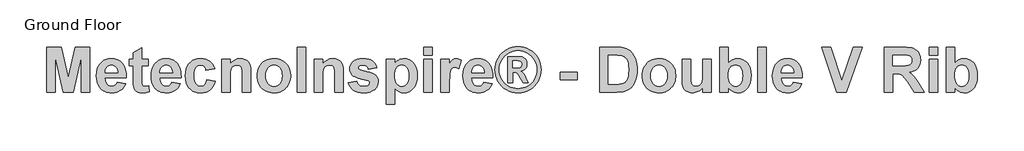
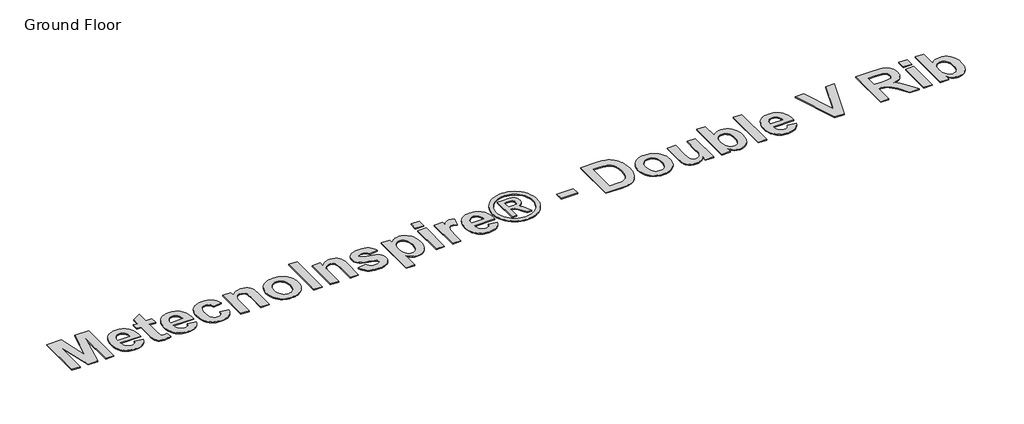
# One storey, part 9 of 14: 1 proxy.
"""IFC4 building model written with IfcOpenShell, lengths in millimetres."""

from ifc_helpers import new_model, si_unit, origin, origin_with_axes, place, context, project, spatial, polyline, outline, extrude, element, save

model = new_model("IFC4")

# Units and contexts
model_context = context("Model", 3, world=origin())
ifc_project = project(units=[si_unit("LENGTHUNIT", "METRE", prefix="MILLI")], contexts=[model_context])

# Site, building, storey
site = spatial("IfcSite", under=ifc_project)
building = spatial("IfcBuilding", under=site)
storey = spatial("IfcBuildingStorey", under=building, Name="Ground Floor", Elevation=0.0)

# Proxy
placement = place(None, origin())
element("IfcBuildingElementProxy", 1, Name="900mm Arial", ObjectType="900mm Arial", at=placement, inside=storey, context=model_context, shape_type="SweptSolid", body=[
    extrude(outline(polyline([(-961.6806462, -53019.7488861), (-961.6806462, -52097.7851027), (-660.7619114, -52097.7851027), (-515.3331003, -52726.6046475), (-369.9042893, -52097.7851027), (-68.9855544, -52097.7851027), (-68.9855544, -53019.7488861), (-244.5977036, -53019.7488861), (-251.9148765, -52293.9768007), (-412.4353566, -53019.7488861), (-618.0021824, -53019.7488861), (-778.7513241, -52293.9768007), (-786.068497, -53019.7488861), (-961.6806462, -53019.7488861)])), origin_with_axes(), (0.0, 0.0, 1.0), 20.0),
    extrude(outline(polyline([(487.1195848, -52814.8680454), (662.731734, -52844.1367369), (643.7528168, -52887.889715), (619.972005, -52926.0833567), (591.3892984, -52958.7176619), (558.0046971, -52985.7926307), (519.975406, -53007.0510187), (477.45863, -53022.2355816), (430.454369, -53031.3463193), (378.9626231, -53034.3832319), (337.8142441, -53032.5932399), (299.431242, -53027.2232639), (263.8136168, -53018.2733039), (230.9613684, -53005.7433599), (200.8744969, -52989.6334319), (173.5530023, -52969.9435199), (148.9968845, -52946.6736239), (127.2061436, -52919.8237439), (98.9950122, -52870.961607), (78.844204, -52816.0685191), (66.7537191, -52755.14448), (62.7235575, -52688.1894898), (68.0685237, -52609.2440543), (84.103422, -52539.330754), (96.1295958, -52507.7611545), (110.8282527, -52478.449589), (128.1993926, -52451.3960572), (148.2430156, -52426.6005592), (193.8324326, -52385.1842174), (218.7494071, -52368.9135117), (245.0812255, -52355.6011161), (272.8278879, -52345.2470306), (301.9893943, -52337.8512553), (364.556939, -52331.934635), (400.288895, -52333.4530913), (434.0843727, -52338.0084602), (465.9433721, -52345.6007416), (495.865893, -52356.2299356), (523.8519356, -52369.8960422), (549.9014998, -52386.5990614), (574.0145856, -52406.3389931), (596.1911931, -52429.1158374), (616.0168729, -52455.0296337), (633.0771759, -52484.1804216), (647.3721021, -52516.568201), (658.9016513, -52552.1929719), (667.6658237, -52591.0547344), (673.6646193, -52633.1534883), (677.3660798, -52727.0619708), (238.3357067, -52727.0619708), (241.6084266, -52766.3631923), (249.5972931, -52801.0340154), (262.3023062, -52831.07444), (279.7234659, -52856.4844662), (300.7174638, -52876.6924397), (324.1409919, -52891.1267065), (349.99405, -52899.7872666), (378.2766381, -52902.67412), (415.1483296, -52897.4720674), (445.7318257, -52881.8659096), (458.608335, -52869.8754642), (469.7984646, -52854.7123383), (487.1195848, -52814.8680454)]), holes=[polyline([(501.7539306, -52624.6215504), (498.6241242, -52587.5426343), (491.0639983, -52555.1941561), (479.0735529, -52527.5761159), (462.652788, -52504.6885136), (443.0164685, -52486.7314282), (421.3793597, -52473.9049386), (397.7414613, -52466.2090449), (372.1027735, -52463.6437469), (344.8634542, -52466.3448127), (320.0822476, -52474.44801), (297.7591537, -52487.9533389), (277.8941726, -52506.8607993), (261.7163607, -52530.512989), (250.2261127, -52558.0238441), (243.4234285, -52589.3933645), (241.3083082, -52624.6215504), (501.7539306, -52624.6215504)])]), origin_with_axes(), (0.0, 0.0, 1.0), 20.0),
    extrude(outline(polyline([(1131.0307986, -52346.5689808), (1131.0307986, -52478.2780927), (999.3216867, -52478.2780927), (999.3216867, -52767.07776), (1000.3220814, -52836.3908234), (1003.3232656, -52869.1751879), (1009.8687054, -52882.4375637), (1021.501867, -52893.1846614), (1037.2223556, -52900.3017553), (1056.0297765, -52902.67412), (1090.7863477, -52898.4438794), (1138.3479715, -52885.7531577), (1145.6651444, -53010.60242), (1112.8379059, -53021.0065252), (1077.9241298, -53028.4380289), (1001.8369649, -53034.3832319), (955.0756569, -53030.2673222), (913.1162436, -53017.9195929), (878.8455785, -52999.0550066), (855.1505147, -52975.3885255), (839.5157742, -52944.6906987), (829.4260788, -52904.7320749), (825.1386728, -52856.9989549), (823.7095375, -52776.910211), (823.7095375, -52478.2780927), (735.9034629, -52478.2780927), (735.9034629, -52346.5689808), (823.7095375, -52346.5689808), (823.7095375, -52214.8598689), (999.3216867, -52112.4194485), (999.3216867, -52346.5689808), (1131.0307986, -52346.5689808)])), origin_with_axes(), (0.0, 0.0, 1.0), 20.0),
    extrude(outline(polyline([(1613.9642089, -52814.8680454), (1789.5763582, -52844.1367369), (1770.597441, -52887.889715), (1746.8166291, -52926.0833567), (1718.2339225, -52958.7176619), (1684.8493213, -52985.7926307), (1646.8200302, -53007.0510187), (1604.3032541, -53022.2355816), (1557.2989932, -53031.3463193), (1505.8072472, -53034.3832319), (1464.6588683, -53032.5932399), (1426.2758662, -53027.2232639), (1390.658241, -53018.2733039), (1357.8059926, -53005.7433599), (1327.7191211, -52989.6334319), (1300.3976264, -52969.9435199), (1275.8415086, -52946.6736239), (1254.0507677, -52919.8237439), (1225.8396363, -52870.961607), (1205.6888282, -52816.0685191), (1193.5983433, -52755.14448), (1189.5681817, -52688.1894898), (1194.9131478, -52609.2440543), (1210.9480462, -52539.330754), (1222.97422, -52507.7611545), (1237.6728768, -52478.449589), (1255.0440168, -52451.3960572), (1275.0876397, -52426.6005592), (1320.6770567, -52385.1842174), (1345.5940312, -52368.9135117), (1371.9258496, -52355.6011161), (1399.672512, -52345.2470306), (1428.8340184, -52337.8512553), (1491.4015631, -52331.934635), (1527.1335192, -52333.4530913), (1560.9289969, -52338.0084602), (1592.7879962, -52345.6007416), (1622.7105172, -52356.2299356), (1650.6965597, -52369.8960422), (1676.7461239, -52386.5990614), (1700.8592098, -52406.3389931), (1723.0358172, -52429.1158374), (1742.8614971, -52455.0296337), (1759.9218001, -52484.1804216), (1774.2167262, -52516.568201), (1785.7462755, -52552.1929719), (1794.5104479, -52591.0547344), (1800.5092434, -52633.1534883), (1804.2107039, -52727.0619708), (1365.1803309, -52727.0619708), (1368.4530508, -52766.3631923), (1376.4419173, -52801.0340154), (1389.1469304, -52831.07444), (1406.56809, -52856.4844662), (1427.562088, -52876.6924397), (1450.985616, -52891.1267065), (1476.8386741, -52899.7872666), (1505.1212623, -52902.67412), (1541.9929538, -52897.4720674), (1572.5764498, -52881.8659096), (1585.4529591, -52869.8754642), (1596.6430888, -52854.7123383), (1613.9642089, -52814.8680454)]), holes=[polyline([(1628.5985547, -52624.6215504), (1625.4687483, -52587.5426343), (1617.9086225, -52555.1941561), (1605.918177, -52527.5761159), (1589.4974121, -52504.6885136), (1569.8610927, -52486.7314282), (1548.2239838, -52473.9049386), (1524.5860855, -52466.2090449), (1498.9473977, -52463.6437469), (1471.7080783, -52466.3448127), (1446.9268717, -52474.44801), (1424.6037779, -52487.9533389), (1404.7387968, -52506.8607993), (1388.5609849, -52530.512989), (1377.0707368, -52558.0238441), (1370.2680527, -52589.3933645), (1368.1529324, -52624.6215504), (1628.5985547, -52624.6215504)])]), origin_with_axes(), (0.0, 0.0, 1.0), 20.0),
    extrude(outline(polyline([(2492.024955, -52536.8154758), (2316.4128058, -52566.0841673), (2310.9892372, -52542.1675876), (2302.950351, -52521.4093969), (2292.2961471, -52503.8095954), (2279.0266256, -52489.3681829), (2263.3561567, -52478.1137421), (2245.4991108, -52470.0748559), (2225.4554878, -52465.2515242), (2203.2252878, -52463.6437469), (2173.8136827, -52466.6592225), (2147.5461753, -52475.7056491), (2124.4227657, -52490.7830268), (2104.4434538, -52511.8913556), (2088.3370987, -52540.059613), (2076.8325593, -52576.3167763), (2069.9298356, -52620.6628455), (2067.6289278, -52673.0978208), (2070.0227294, -52731.3636681), (2077.2041345, -52780.3973012), (2089.1731428, -52820.1987202), (2105.9297546, -52850.7679248), (2126.7165279, -52873.4768852), (2150.7760212, -52889.6975712), (2178.1082344, -52899.4299828), (2208.7131674, -52902.67412), (2231.7436833, -52900.8233897), (2252.587622, -52895.271199), (2271.2449837, -52886.0175477), (2287.7157684, -52873.062436), (2301.957102, -52855.5769652), (2313.9261103, -52832.732237), (2323.6227935, -52804.5282513), (2331.0471516, -52770.9650081), (2506.6593008, -52800.2336996), (2490.4743432, -52854.6480273), (2468.2155605, -52901.9595523), (2439.8829526, -52942.1682748), (2405.4765195, -52975.2741947), (2364.8533478, -53001.1343985), (2317.8705238, -53019.6059726), (2264.5280477, -53030.6889171), (2204.8259193, -53034.3832319), (2136.9920109, -53028.5666511), (2105.7922003, -53021.2959251), (2076.4038187, -53011.1169087), (2048.8268661, -52998.029602), (2023.0613425, -52982.0340048), (1999.107248, -52963.1301172), (1976.9645825, -52941.3179393), (1957.0549409, -52916.9368906), (1939.7999183, -52890.3263907), (1925.1995145, -52861.4864398), (1913.2537295, -52830.4170378), (1897.3260163, -52761.5898803), (1892.0167785, -52683.8449184), (1897.2902879, -52605.2210383), (1913.110816, -52535.8150811), (1924.9762121, -52504.5688235), (1939.4783628, -52475.6270467), (1956.6172682, -52448.9897506), (1976.3929284, -52424.6569352), (1998.4194766, -52402.9251461), (2022.3110465, -52384.0909289), (2048.0676379, -52368.1542835), (2075.689251, -52355.1152101), (2105.1758857, -52344.9737085), (2136.527542, -52337.7297788), (2204.8259193, -52331.934635), (2260.6908193, -52335.1001698), (2310.5247683, -52344.596774), (2354.3277661, -52360.4244478), (2392.0998128, -52382.5831911), (2424.4125626, -52411.2159174), (2451.8376696, -52446.4655403), (2474.3751337, -52488.3320598), (2492.024955, -52536.8154758)])), origin_with_axes(), (0.0, 0.0, 1.0), 20.0),
    extrude(outline(polyline([(3238.3765892, -53019.7488861), (3062.76444, -53019.7488861), (3062.76444, -52673.7838057), (3060.0205002, -52583.2337913), (3051.7886807, -52531.5562578), (3037.3258311, -52502.9163858), (3015.8888012, -52481.4793558), (2988.5065683, -52468.1026492), (2956.2081099, -52463.6437469), (2934.3780677, -52465.2372328), (2913.7056252, -52470.0176905), (2894.1907823, -52477.98512), (2875.833539, -52489.1395212), (2859.4556481, -52502.9306771), (2845.8788625, -52518.8083706), (2835.1031821, -52536.7726017), (2827.128607, -52556.8233704), (2817.2675732, -52616.8756369), (2813.9805619, -52712.6562867), (2813.9805619, -53019.7488861), (2638.3684127, -53019.7488861), (2638.3684127, -52346.5689808), (2813.9805619, -52346.5689808), (2813.9805619, -52443.5215215), (2835.5212042, -52417.368345), (2858.4123793, -52394.7022587), (2882.6540873, -52375.5232626), (2908.2463282, -52359.8313567), (2935.189102, -52347.6265409), (2963.4824087, -52338.9088154), (2993.1262482, -52333.6781801), (3024.1206207, -52331.934635), (3077.5131166, -52337.2510185), (3126.1037178, -52353.2001687), (3166.6911611, -52377.3811385), (3196.0741835, -52407.3929804), (3216.2249916, -52442.5211268), (3229.1157923, -52482.05101), (3236.06139, -52532.8424796), (3238.3765892, -52601.7553851), (3238.3765892, -53019.7488861)])), origin_with_axes(), (0.0, 0.0, 1.0), 20.0),
    extrude(outline(polyline([(3370.0857011, -52673.5551441), (3372.7939126, -52629.6592524), (3380.9185469, -52586.4636371), (3394.4596042, -52543.9682981), (3413.4170843, -52502.1732354), (3437.333664, -52463.179278), (3465.75202, -52429.0872547), (3498.6721523, -52399.8971656), (3536.0940609, -52375.6090107), (3576.9244573, -52356.5014713), (3620.0700529, -52342.8532289), (3665.5308477, -52334.6642835), (3713.3068417, -52331.934635), (3750.2946504, -52333.481674), (3785.5710696, -52338.122791), (3819.1360992, -52345.857986), (3850.9897393, -52356.6872589), (3881.1319898, -52370.6106099), (3909.5628508, -52387.6280388), (3936.2823221, -52407.7395457), (3961.290404, -52430.9451306), (3983.9332669, -52456.5159345), (4003.5570813, -52483.7230983), (4020.1618474, -52512.5666221), (4033.7475652, -52543.0465058), (4044.3142345, -52575.1627495), (4051.8618555, -52608.9153531), (4057.8999522, -52681.3296402), (4056.3743503, -52718.6425773), (4051.7975444, -52754.3227272), (4044.1695345, -52788.37009), (4033.4903208, -52820.7846656), (4019.7599031, -52851.5664542), (4002.9782815, -52880.7154557), (3983.145456, -52908.23167), (3960.2614265, -52934.1150972), (3935.0657707, -52957.6154413), (3908.298066, -52977.9824061), (3879.9583124, -52995.2159918), (3850.04651, -53009.3161982), (3818.5626587, -53020.2830255), (3785.5067585, -53028.1164735), (3750.8788095, -53032.8165423), (3714.6788116, -53034.3832319), (3669.368076, -53031.7750599), (3625.1291919, -53023.950544), (3581.9621593, -53010.9096841), (3539.8669782, -52992.6524803), (3500.7944183, -52969.3504288), (3466.6952494, -52941.1750257), (3437.5694713, -52908.1262713), (3413.4170843, -52870.2041653), (3394.4596042, -52827.6445152), (3380.9185469, -52780.6831283), (3372.7939126, -52729.3200046), (3370.0857011, -52673.5551441)]), holes=[polyline([(3545.6978503, -52683.1589335), (3548.7347629, -52733.2143984), (3557.8455006, -52777.0531246), (3573.0300635, -52814.6751121), (3594.2884515, -52846.080361), (3620.0057418, -52870.8401305), (3648.5670113, -52888.5256802), (3679.9722602, -52899.13701), (3714.2214883, -52902.67412), (3748.4564251, -52899.13701), (3779.8187999, -52888.5256802), (3808.3086127, -52870.8401305), (3833.9258635, -52846.080361), (3855.084212, -52814.589364), (3870.1973181, -52776.7101321), (3879.2651818, -52732.4426653), (3882.287803, -52681.7869636), (3879.2651818, -52632.3317355), (3870.1973181, -52588.9217499), (3855.084212, -52551.5570067), (3833.9258635, -52520.237506), (3808.3086127, -52495.4777364), (3779.8187999, -52477.7921867), (3748.4564251, -52467.1808569), (3714.2214883, -52463.6437469), (3679.9722602, -52467.1808569), (3648.5670113, -52477.7921867), (3620.0057418, -52495.4777364), (3594.2884515, -52520.237506), (3573.0300635, -52551.6427548), (3557.8455006, -52589.2647424), (3548.7347629, -52633.1034686), (3545.6978503, -52683.1589335)])]), origin_with_axes(), (0.0, 0.0, 1.0), 20.0),
    extrude(outline(polyline([(4189.6090641, -53019.7488861), (4189.6090641, -52097.7851027), (4365.2212134, -52097.7851027), (4365.2212134, -53019.7488861), (4189.6090641, -53019.7488861)])), origin_with_axes(), (0.0, 0.0, 1.0), 20.0),
    extrude(outline(polyline([(5140.8415391, -53019.7488861), (4965.2293898, -53019.7488861), (4965.2293898, -52673.7838057), (4962.48545, -52583.2337913), (4954.2536305, -52531.5562578), (4939.790781, -52502.9163858), (4918.3537511, -52481.4793558), (4890.9715182, -52468.1026492), (4858.6730597, -52463.6437469), (4836.8430176, -52465.2372328), (4816.170575, -52470.0176905), (4796.6557321, -52477.98512), (4778.2984888, -52489.1395212), (4761.920598, -52502.9306771), (4748.3438123, -52518.8083706), (4737.5681319, -52536.7726017), (4729.5935568, -52556.8233704), (4719.732523, -52616.8756369), (4716.4455118, -52712.6562867), (4716.4455118, -53019.7488861), (4540.8333626, -53019.7488861), (4540.8333626, -52346.5689808), (4716.4455118, -52346.5689808), (4716.4455118, -52443.5215215), (4737.986154, -52417.368345), (4760.8773292, -52394.7022587), (4785.1190372, -52375.5232626), (4810.7112781, -52359.8313567), (4837.6540519, -52347.6265409), (4865.9473585, -52338.9088154), (4895.5911981, -52333.6781801), (4926.5855706, -52331.934635), (4979.9780664, -52337.2510185), (5028.5686676, -52353.2001687), (5069.156111, -52377.3811385), (5098.5391333, -52407.3929804), (5118.6899415, -52442.5211268), (5131.5807421, -52482.05101), (5138.5263398, -52532.8424796), (5140.8415391, -52601.7553851), (5140.8415391, -53019.7488861)])), origin_with_axes(), (0.0, 0.0, 1.0), 20.0),
    extrude(outline(polyline([(5243.2819594, -52829.5023911), (5418.8941087, -52800.2336996), (5425.8182693, -52823.871598), (5435.614992, -52844.4797294), (5448.2842767, -52862.0580939), (5463.8261234, -52876.6066916), (5482.4834851, -52888.0111915), (5504.4993149, -52896.1572629), (5529.8736126, -52901.0449057), (5558.6063784, -52902.67412), (5590.0330643, -52901.1163625), (5617.3152577, -52896.44309), (5640.4529587, -52888.6543024), (5659.4461672, -52877.7499999), (5676.5957912, -52857.3991128), (5682.3123325, -52831.1030227), (5679.2825656, -52812.9244213), (5670.1932649, -52798.1757447), (5649.4422199, -52786.1138426), (5612.7991901, -52775.0809178), (5518.4905497, -52752.1290044), (5443.1894092, -52730.1489031), (5386.8957686, -52709.1406137), (5349.6096279, -52689.1041364), (5315.8963255, -52659.2494994), (5291.8153952, -52624.1070617), (5277.366837, -52583.6768232), (5272.550651, -52537.958784), (5276.6808521, -52496.127993), (5289.0714554, -52457.7557094), (5309.7224609, -52422.8419333), (5338.6338686, -52391.3866647), (5376.2344191, -52365.3764017), (5422.952853, -52346.7976425), (5478.7891703, -52335.6503869), (5543.743371, -52331.934635), (5605.5820567, -52334.9358192), (5658.9316785, -52343.9393718), (5703.7922365, -52358.9452927), (5740.1637306, -52379.9535821), (5769.789706, -52406.849909), (5794.4137077, -52439.5199426), (5814.0357357, -52477.9636829), (5828.6557902, -52522.18113), (5653.0436409, -52551.4498216), (5640.1242576, -52513.8921451), (5619.2017164, -52486.2812506), (5605.4248518, -52476.3773427), (5589.0183782, -52469.3031228), (5548.316604, -52463.6437469), (5498.2968675, -52468.4456416), (5479.503738, -52474.44801), (5464.8551008, -52482.8513258), (5452.3358754, -52498.6289798), (5448.1628002, -52518.5225436), (5452.3358754, -52535.7293329), (5464.8551008, -52550.3065133), (5482.9693911, -52559.8960113), (5514.9034201, -52571.2862199), (5620.2306938, -52599.4687686), (5681.6906586, -52616.2896914), (5733.1038021, -52634.9684902), (5774.4701242, -52655.5051649), (5805.7896249, -52677.8997155), (5828.5986248, -52703.8956871), (5844.8907675, -52734.5506399), (5854.6660532, -52769.8645739), (5857.9244817, -52809.837489), (5853.2011894, -52854.2907434), (5839.0313127, -52895.4998606), (5815.4148513, -52933.4648406), (5782.3518055, -52968.1856835), (5740.0279627, -52997.1471109), (5688.6291106, -53017.8338448), (5628.1552492, -53030.2458851), (5558.6063784, -53034.3832319), (5494.8883798, -53030.9390158), (5438.1874356, -53020.6063673), (5388.5035459, -53003.3852866), (5345.8367106, -52979.2757736), (5310.0583077, -52949.2496404), (5281.0397148, -52914.2786989), (5258.7809321, -52874.3629491), (5243.2819594, -52829.5023911)])), origin_with_axes(), (0.0, 0.0, 1.0), 20.0),
    extrude(outline(polyline([(6018.9022852, -52346.5689808), (6194.5144344, -52346.5689808), (6194.5144344, -52443.5215215), (6211.3067745, -52419.7835837), (6230.8144717, -52398.4180105), (6253.0375261, -52379.424802), (6277.9759376, -52362.8039581), (6305.0008866, -52349.2986293), (6333.4835538, -52339.6519658), (6363.4239389, -52333.8639677), (6394.8220421, -52331.934635), (6448.6218415, -52337.6726134), (6498.2056918, -52354.8865484), (6543.5735928, -52383.5764401), (6584.7255446, -52423.7422886), (6603.0274089, -52447.8178596), (6618.8890246, -52474.1407459), (6643.2915104, -52533.5284645), (6657.9330018, -52601.9054443), (6662.8134989, -52679.2716854), (6657.7757969, -52758.8316491), (6642.6626908, -52828.9879024), (6631.3278612, -52860.5396377), (6617.4741806, -52889.7404453), (6601.101649, -52916.5903253), (6582.2102664, -52941.0892776), (6539.7720928, -52981.9053826), (6493.0608046, -53011.0597433), (6442.0764017, -53028.5523598), (6386.8188842, -53034.3832319), (6334.7411928, -53028.9525177), (6287.8083886, -53012.6603749), (6242.3047198, -52983.1630217), (6194.5144344, -52938.1166761), (6194.5144344, -53268.5327642), (6018.9022852, -53268.5327642), (6018.9022852, -52346.5689808)]), holes=[polyline([(6194.5144344, -52671.4971892), (6197.2655199, -52726.747561), (6205.5187764, -52774.280602), (6219.2742039, -52814.0963123), (6238.5318025, -52846.1946918), (6261.7481059, -52870.9044416), (6287.379648, -52888.5542629), (6315.4264289, -52899.1441557), (6345.8884484, -52902.67412), (6374.9213326, -52899.4371285), (6401.4246473, -52889.7261539), (6425.3983924, -52873.5411963), (6446.842568, -52850.8822557), (6464.499535, -52820.8346854), (6477.1116543, -52782.4838388), (6484.6789259, -52735.829716), (6487.2013497, -52680.8723169), (6484.6074691, -52629.3091143), (6476.8258272, -52584.8344228), (6463.8564241, -52547.4482426), (6445.6992598, -52517.1505737), (6423.6977214, -52493.741337), (6399.1951962, -52477.0204536), (6372.1916841, -52466.9879236), (6342.6871853, -52463.6437469), (6312.1394176, -52466.9236125), (6284.2927157, -52476.7632093), (6259.1470796, -52493.1625372), (6236.7025093, -52516.1215962), (6218.2452265, -52545.5117643), (6205.0614531, -52581.2044191), (6197.151189, -52623.1995607), (6194.5144344, -52671.4971892)])]), origin_with_axes(), (0.0, 0.0, 1.0), 20.0),
    extrude(outline(polyline([(6794.5226109, -52258.7629062), (6794.5226109, -52097.7851027), (6970.1347601, -52097.7851027), (6970.1347601, -52258.7629062), (6794.5226109, -52258.7629062)])), origin_with_axes(), (0.0, 0.0, 1.0), 20.0),
    extrude(outline(polyline([(6794.5226109, -53019.7488861), (6794.5226109, -52346.5689808), (6970.1347601, -52346.5689808), (6970.1347601, -53019.7488861), (6794.5226109, -53019.7488861)])), origin_with_axes(), (0.0, 0.0, 1.0), 20.0),
    extrude(outline(polyline([(7321.3590585, -53019.7488861), (7145.7469093, -53019.7488861), (7145.7469093, -52346.5689808), (7321.3590585, -52346.5689808), (7321.3590585, -52440.3202584), (7358.4594117, -52385.1842174), (7375.5089961, -52366.1695718), (7391.5581859, -52352.8571762), (7424.8284563, -52337.1652703), (7462.4432982, -52331.934635), (7490.0970668, -52334.2498343), (7517.2649294, -52341.195432), (7543.946886, -52352.7714281), (7570.1429366, -52368.9778228), (7518.9227264, -52536.1294908), (7476.6203206, -52514.6924609), (7456.6695915, -52509.3332034), (7437.519178, -52507.5467842), (7403.7630016, -52512.5487579), (7375.666201, -52527.5546789), (7363.7043383, -52539.5665613), (7353.0858628, -52555.594314), (7335.8790735, -52599.6974303), (7329.5265669, -52632.9105353), (7324.9890622, -52680.4149936), (7321.3590585, -52818.2979702), (7321.3590585, -53019.7488861)])), origin_with_axes(), (0.0, 0.0, 1.0), 20.0),
    extrude(outline(polyline([(8023.8076554, -52814.8680454), (8199.4198046, -52844.1367369), (8180.4408874, -52887.889715), (8156.6600756, -52926.0833567), (8128.077369, -52958.7176619), (8094.6927677, -52985.7926307), (8056.6634766, -53007.0510187), (8014.1467006, -53022.2355816), (7967.1424396, -53031.3463193), (7915.6506937, -53034.3832319), (7874.5023147, -53032.5932399), (7836.1193126, -53027.2232639), (7800.5016874, -53018.2733039), (7767.649439, -53005.7433599), (7737.5625675, -52989.6334319), (7710.2410729, -52969.9435199), (7685.6849551, -52946.6736239), (7663.8942141, -52919.8237439), (7635.6830828, -52870.961607), (7615.5322746, -52816.0685191), (7603.4417897, -52755.14448), (7599.4116281, -52688.1894898), (7604.7565942, -52609.2440543), (7620.7914926, -52539.330754), (7632.8176664, -52507.7611545), (7647.5163233, -52478.449589), (7664.8874632, -52451.3960572), (7684.9310862, -52426.6005592), (7730.5205032, -52385.1842174), (7755.4374776, -52368.9135117), (7781.7692961, -52355.6011161), (7809.5159585, -52345.2470306), (7838.6774649, -52337.8512553), (7901.2450096, -52331.934635), (7936.9769656, -52333.4530913), (7970.7724433, -52338.0084602), (8002.6314426, -52345.6007416), (8032.5539636, -52356.2299356), (8060.5400062, -52369.8960422), (8086.5895704, -52386.5990614), (8110.7026562, -52406.3389931), (8132.8792637, -52429.1158374), (8152.7049435, -52455.0296337), (8169.7652465, -52484.1804216), (8184.0601727, -52516.568201), (8195.5897219, -52552.1929719), (8204.3538943, -52591.0547344), (8210.3526899, -52633.1534883), (8214.0541504, -52727.0619708), (7775.0237773, -52727.0619708), (7778.2964972, -52766.3631923), (7786.2853637, -52801.0340154), (7798.9903768, -52831.07444), (7816.4115365, -52856.4844662), (7837.4055344, -52876.6924397), (7860.8290625, -52891.1267065), (7886.6821206, -52899.7872666), (7914.9647087, -52902.67412), (7951.8364002, -52897.4720674), (7982.4198963, -52881.8659096), (7995.2964056, -52869.8754642), (8006.4865352, -52854.7123383), (8023.8076554, -52814.8680454)]), holes=[polyline([(8038.4420012, -52624.6215504), (8035.3121948, -52587.5426343), (8027.7520689, -52555.1941561), (8015.7616235, -52527.5761159), (7999.3408586, -52504.6885136), (7979.7045391, -52486.7314282), (7958.0674303, -52473.9049386), (7934.4295319, -52466.2090449), (7908.7908441, -52463.6437469), (7881.5515247, -52466.3448127), (7856.7703181, -52474.44801), (7834.4472243, -52487.9533389), (7814.5822432, -52506.8607993), (7798.4044313, -52530.512989), (7786.9141833, -52558.0238441), (7780.1114991, -52589.3933645), (7777.9963788, -52624.6215504), (8038.4420012, -52624.6215504)])]), origin_with_axes(), (0.0, 0.0, 1.0), 20.0),
    extrude(outline(polyline([(8733.5734251, -52083.150757), (8794.1187433, -52086.973694), (8853.4207138, -52098.442505), (8911.4793366, -52117.55719), (8968.2946116, -52144.3177491), (9021.4798828, -52178.2168391), (9068.6484944, -52218.747117), (9109.8004462, -52265.9085828), (9144.9357382, -52319.7012366), (9173.0468301, -52377.4740323), (9193.1261815, -52436.5759238), (9205.1737923, -52497.0069112), (9209.1896626, -52558.7669944), (9205.2523948, -52620.1340655), (9193.4405913, -52680.0720012), (9173.7542521, -52738.5808015), (9146.1933773, -52795.6604666), (9111.5868653, -52848.9171946), (9070.7636146, -52895.9571839), (9023.7236253, -52936.7804346), (8970.4668973, -52971.3869466), (8913.3872322, -52998.9478214), (8854.8784319, -53018.6341606), (8794.9404962, -53030.4459641), (8733.5734251, -53034.3832319), (8672.2063541, -53030.4459641), (8612.2684184, -53018.6341606), (8553.7596181, -52998.9478214), (8496.679953, -52971.3869466), (8443.423225, -52936.7804346), (8396.3832356, -52895.9571839), (8355.559985, -52848.9171946), (8320.953473, -52795.6604666), (8293.3925982, -52738.5808015), (8273.706259, -52680.0720012), (8261.8944555, -52620.1340655), (8257.9571877, -52558.7669944), (8261.9730579, -52497.0069112), (8274.0206688, -52436.5759238), (8294.1000201, -52377.4740323), (8322.2111121, -52319.7012366), (8357.3464041, -52265.9085828), (8398.4983559, -52218.747117), (8445.6669675, -52178.2168391), (8498.8522387, -52144.3177491), (8555.6675137, -52117.55719), (8613.7261365, -52098.442505), (8673.0281069, -52086.973694), (8733.5734251, -52083.150757)]), holes=[polyline([(8733.3447635, -52170.9568316), (8684.0181576, -52174.0652009), (8635.7348205, -52183.3903089), (8588.4947522, -52198.9321556), (8542.2979527, -52220.690741), (8499.045172, -52248.2659072), (8460.63716, -52281.2574963), (8427.0739168, -52319.6655082), (8398.3554424, -52363.4899431), (8375.3463636, -52410.5799522), (8358.9113073, -52458.7846868), (8349.0502735, -52508.104147), (8345.7632623, -52558.5383328), (8348.9716711, -52608.5937977), (8358.5968975, -52657.4630803), (8374.6389416, -52705.1461805), (8397.0978033, -52751.6430984), (8425.3089347, -52795.031647), (8458.6077879, -52833.3896392), (8496.9943628, -52866.7170751), (8540.4686595, -52895.0139546), (8587.0370342, -52917.5728558), (8634.7058431, -52933.6863566), (8683.4750862, -52943.3544571), (8733.3447635, -52946.5771573), (8783.3930827, -52943.3544571), (8832.2409282, -52933.6863566), (8879.8883001, -52917.5728558), (8926.3351983, -52895.0139546), (8969.6808728, -52866.7170751), (9008.0245737, -52833.3896392), (9041.3663009, -52795.031647), (9069.7060545, -52751.6430984), (9092.3149754, -52705.1461805), (9108.4642046, -52657.4630803), (9118.1537422, -52608.5937977), (9121.383588, -52558.5383328), (9118.0965767, -52508.104147), (9108.235543, -52458.7846868), (9091.8004867, -52410.5799522), (9068.7914079, -52363.4899431), (9040.0514964, -52319.6655082), (9006.4239421, -52281.2574963), (8967.908745, -52248.2659072), (8924.5059051, -52220.690741), (8878.1733377, -52198.9321556), (8830.8689583, -52183.3903089), (8782.5927669, -52174.0652009), (8733.3447635, -52170.9568316)])]), origin_with_axes(), (0.0, 0.0, 1.0), 20.0),
    extrude(outline(polyline([(8521.3754115, -52829.5023911), (8521.3754115, -52288.0315977), (8620.3859071, -52288.0315977), (8776.1044925, -52289.4035676), (8819.8074509, -52297.0923157), (8852.5918153, -52311.0120938), (8877.658849, -52332.5348719), (8898.209815, -52363.0326198), (8911.9295142, -52399.9043113), (8916.5027472, -52440.54892), (8914.3804813, -52468.7600514), (8908.0136834, -52494.8560625), (8897.4023536, -52518.8369533), (8882.5464918, -52540.7027239), (8863.846256, -52559.5387275), (8841.7018041, -52574.4303176), (8816.1131361, -52585.3774943), (8787.0802519, -52592.3802574), (8807.3453908, -52602.155543), (8822.4084772, -52612.7311445), (8856.5933943, -52654.3475652), (8893.8652436, -52720.2021212), (8945.7714388, -52829.5023911), (8843.3310184, -52829.5023911), (8792.7967932, -52742.8396248), (8747.8361957, -52671.4971892), (8715.3948238, -52632.6247082), (8701.4250259, -52622.7208004), (8685.6973916, -52615.6465805), (8648.9686137, -52609.9872046), (8623.8158319, -52609.9872046), (8623.8158319, -52829.5023911), (8521.3754115, -52829.5023911)]), holes=[polyline([(8623.8158319, -52522.18113), (8663.8316211, -52522.18113), (8732.9446056, -52520.3804195), (8769.7019663, -52514.978288), (8788.1092293, -52505.0315061), (8802.1719209, -52489.5968445), (8811.0897254, -52470.1891868), (8814.0623269, -52448.3234162), (8811.1468908, -52427.1436306), (8802.4005826, -52408.4219578), (8788.2807255, -52393.4160369), (8769.2446429, -52383.3835069), (8732.1442898, -52377.724131), (8663.8316211, -52375.8376723), (8623.8158319, -52375.8376723), (8623.8158319, -52522.18113)])]), origin_with_axes(), (0.0, 0.0, 1.0), 20.0),
    extrude(outline(polyline([(9604.3169983, -52770.9650081), (9604.3169983, -52609.9872046), (9955.5412968, -52609.9872046), (9955.5412968, -52770.9650081), (9604.3169983, -52770.9650081)])), origin_with_axes(), (0.0, 0.0, 1.0), 20.0),
    extrude(outline(polyline([(10409.2060156, -52097.7851027), (10750.597863, -52097.7851027), (10852.3522984, -52102.1868396), (10892.9397417, -52107.6890106), (10926.6673355, -52115.39205), (10965.9113916, -52129.7048403), (11002.2400117, -52148.6337377), (11035.6531957, -52172.1787423), (11066.1509436, -52200.3398539), (11093.454574, -52232.5239816), (11117.2854057, -52268.1380339), (11137.6434384, -52307.1820111), (11154.5286723, -52349.6559131), (11167.7839025, -52396.4243667), (11177.2519241, -52448.3519989), (11182.932737, -52505.4388096), (11184.8263413, -52567.6847989), (11183.0542135, -52622.5635955), (11177.7378301, -52673.5551441), (11168.877191, -52720.6594445), (11156.4722964, -52763.8764968), (11137.2361348, -52811.7811131), (11114.2842215, -52854.8838346), (11087.6165562, -52893.1846614), (11057.2331391, -52926.6835935), (11030.851301, -52948.9495219), (11000.1820568, -52968.6430068), (10965.2254067, -52985.764048), (10925.9813505, -53000.3126457), (10892.4967098, -53008.8160009), (10853.7814337, -53014.889826), (10760.6589757, -53019.7488861), (10409.2060156, -53019.7488861), (10409.2060156, -52097.7851027)]), holes=[polyline([(10584.8181648, -52258.7629062), (10584.8181648, -52858.7710827), (10734.3628856, -52858.7710827), (10806.6199679, -52856.598797), (10855.5535615, -52850.0819399), (10900.1140011, -52835.1903498), (10936.3854557, -52812.467098), (10951.7129321, -52797.0109994), (10965.5683991, -52777.2817862), (10988.863305, -52725.0040159), (10997.7668181, -52691.8194936), (11004.1264703, -52653.0899261), (11009.2141921, -52558.9956561), (11004.1264703, -52466.2161905), (10997.7668181, -52428.9586325), (10988.863305, -52397.789191), (10964.4822563, -52347.7122891), (10949.2691107, -52327.3042366), (10932.0408843, -52309.9831164), (10912.5689155, -52295.4916841), (10890.6245425, -52283.5726955), (10866.2077654, -52274.2261504), (10839.3185842, -52267.452049), (10777.1797801, -52260.9351919), (10674.9108559, -52258.7629062), (10584.8181648, -52258.7629062)])]), origin_with_axes(), (0.0, 0.0, 1.0), 20.0),
    extrude(outline(polyline([(11287.2667617, -52673.5551441), (11289.9749731, -52629.6592524), (11298.0996075, -52586.4636371), (11311.6406647, -52543.9682981), (11330.5981449, -52502.1732354), (11354.5147246, -52463.179278), (11382.9330806, -52429.0872547), (11415.8532129, -52399.8971656), (11453.2751215, -52375.6090107), (11494.1055178, -52356.5014713), (11537.2511134, -52342.8532289), (11582.7119082, -52334.6642835), (11630.4879023, -52331.934635), (11667.475711, -52333.481674), (11702.7521302, -52338.122791), (11736.3171598, -52345.857986), (11768.1707999, -52356.6872589), (11798.3130504, -52370.6106099), (11826.7439113, -52387.6280388), (11853.4633827, -52407.7395457), (11878.4714645, -52430.9451306), (11901.1143274, -52456.5159345), (11920.7381419, -52483.7230983), (11937.342908, -52512.5666221), (11950.9286257, -52543.0465058), (11961.4952951, -52575.1627495), (11969.042916, -52608.9153531), (11975.0810128, -52681.3296402), (11973.5554108, -52718.6425773), (11968.9786049, -52754.3227272), (11961.3505951, -52788.37009), (11950.6713814, -52820.7846656), (11936.9409637, -52851.5664542), (11920.1593421, -52880.7154557), (11900.3265166, -52908.23167), (11877.4424871, -52934.1150972), (11852.2468313, -52957.6154413), (11825.4791265, -52977.9824061), (11797.139373, -52995.2159918), (11767.2275705, -53009.3161982), (11735.7437192, -53020.2830255), (11702.6878191, -53028.1164735), (11668.0598701, -53032.8165423), (11631.8598722, -53034.3832319), (11586.5491366, -53031.7750599), (11542.3102525, -53023.950544), (11499.1432199, -53010.9096841), (11457.0480388, -52992.6524803), (11417.9754789, -52969.3504288), (11383.8763099, -52941.1750257), (11354.7505319, -52908.1262713), (11330.5981449, -52870.2041653), (11311.6406647, -52827.6445152), (11298.0996075, -52780.6831283), (11289.9749731, -52729.3200046), (11287.2667617, -52673.5551441)]), holes=[polyline([(11462.8789109, -52683.1589335), (11465.9158235, -52733.2143984), (11475.0265612, -52777.0531246), (11490.2111241, -52814.6751121), (11511.4695121, -52846.080361), (11537.1868023, -52870.8401305), (11565.7480719, -52888.5256802), (11597.1533207, -52899.13701), (11631.4025489, -52902.67412), (11665.6374857, -52899.13701), (11696.9998605, -52888.5256802), (11725.4896733, -52870.8401305), (11751.106924, -52846.080361), (11772.2652726, -52814.589364), (11787.3783787, -52776.7101321), (11796.4462423, -52732.4426653), (11799.4688636, -52681.7869636), (11796.4462423, -52632.3317355), (11787.3783787, -52588.9217499), (11772.2652726, -52551.5570067), (11751.106924, -52520.237506), (11725.4896733, -52495.4777364), (11696.9998605, -52477.7921867), (11665.6374857, -52467.1808569), (11631.4025489, -52463.6437469), (11597.1533207, -52467.1808569), (11565.7480719, -52477.7921867), (11537.1868023, -52495.4777364), (11511.4695121, -52520.237506), (11490.2111241, -52551.6427548), (11475.0265612, -52589.2647424), (11465.9158235, -52633.1034686), (11462.8789109, -52683.1589335)])]), origin_with_axes(), (0.0, 0.0, 1.0), 20.0),
    extrude(outline(polyline([(12531.186152, -53019.7488861), (12531.186152, -52920.9670522), (12512.3287113, -52945.9697748), (12490.7416222, -52968.1571008), (12466.4248845, -52987.5290301), (12439.3784984, -53004.0855629), (12410.5599845, -53017.3407931), (12380.9268635, -53026.8088147), (12350.4791353, -53032.4896276), (12319.2168, -53034.3832319), (12287.9044449, -53032.525356), (12258.2213041, -53026.9517282), (12230.1673776, -53017.6623486), (12203.7426654, -53004.6572171), (12179.9046881, -52988.2864719), (12159.6109665, -52968.9002511), (12142.8615004, -52946.4985548), (12129.65629, -52921.081383), (12119.6523427, -52891.5768842), (12112.506666, -52856.9132068), (12108.21926, -52817.0903508), (12106.7901247, -52772.1083163), (12106.7901247, -52346.5689808), (12282.4022739, -52346.5689808), (12282.4022739, -52657.77749), (12284.7746386, -52772.9943802), (12291.8917325, -52832.8179851), (12305.3256046, -52861.6293533), (12326.6483037, -52883.8095336), (12355.3167584, -52897.9579734), (12390.7878973, -52902.67412), (12412.3892778, -52901.1020711), (12432.8330586, -52896.3859245), (12452.1192399, -52888.5256802), (12470.2478215, -52877.5213382), (12499.8023401, -52849.3102068), (12518.2667686, -52814.9823762), (12523.9189988, -52789.5366217), (12527.9563061, -52750.5855383), (12531.186152, -52632.1673849), (12531.186152, -52346.5689808), (12706.7983012, -52346.5689808), (12706.7983012, -53019.7488861), (12531.186152, -53019.7488861)])), origin_with_axes(), (0.0, 0.0, 1.0), 20.0),
    extrude(outline(polyline([(12882.4104504, -53019.7488861), (12882.4104504, -52097.7851027), (13058.0225996, -52097.7851027), (13058.0225996, -52424.085281), (13100.1249264, -52383.7693734), (13145.9430051, -52354.9722965), (13195.4768356, -52337.6940504), (13248.7264179, -52331.934635), (13306.2634063, -52337.4939715), (13358.598342, -52354.1719807), (13405.7312251, -52381.9686629), (13447.6620557, -52420.8840179), (13466.0979014, -52444.3325558), (13482.0756344, -52470.2034781), (13495.5952546, -52498.4967848), (13506.6567621, -52529.2124758), (13521.4054387, -52597.9110111), (13526.3216642, -52676.2990839), (13521.4340214, -52757.3453484), (13506.7710929, -52828.5305791), (13495.7738965, -52860.4253068), (13482.3328788, -52889.8547761), (13466.4480396, -52916.8189869), (13448.119379, -52941.3179393), (13406.9316988, -52982.0340048), (13361.5709435, -53011.1169087), (13312.037113, -53028.5666511), (13258.3302073, -53034.3832319), (13230.9837028, -53032.6253954), (13203.8229859, -53027.3518861), (13176.8480565, -53018.5627038), (13150.0589148, -53006.2578486), (13124.2844591, -52990.494486), (13100.3535881, -52971.3297812), (13078.2663016, -52948.7637343), (13058.0225996, -52922.7963454), (13058.0225996, -53019.7488861), (12882.4104504, -53019.7488861)]), holes=[polyline([(13058.0225996, -52670.3538809), (13060.0519718, -52720.6880272), (13066.1400883, -52763.9908277), (13076.2869491, -52800.2622823), (13090.4925543, -52829.5023911), (13115.0165165, -52861.5150225), (13143.3133961, -52884.3811878), (13175.3831928, -52898.1008869), (13211.2259069, -52902.67412), (13239.0869001, -52899.4299828), (13264.8184817, -52889.6975712), (13288.4206517, -52873.4768852), (13309.89341, -52850.7679248), (13327.7504559, -52821.0990754), (13340.5054887, -52783.9987223), (13348.1585084, -52739.4668654), (13350.709515, -52687.5035049), (13348.1442171, -52632.2031133), (13340.4483233, -52585.205998), (13327.6218337, -52546.512159), (13309.6647483, -52516.1215962), (13287.6917927, -52493.1625372), (13262.8176923, -52476.7632093), (13235.0424471, -52466.9236125), (13204.3660573, -52463.6437469), (13174.2470302, -52466.8450101), (13146.7719035, -52476.4487995), (13121.9406772, -52492.4551152), (13099.7533512, -52514.8639571), (13081.4961474, -52543.7896562), (13068.4552875, -52579.3465432), (13060.6307716, -52621.5346181), (13058.0225996, -52670.3538809)])]), origin_with_axes(), (0.0, 0.0, 1.0), 20.0),
    extrude(outline(polyline([(13658.0307761, -53019.7488861), (13658.0307761, -52097.7851027), (13833.6429253, -52097.7851027), (13833.6429253, -53019.7488861), (13658.0307761, -53019.7488861)])), origin_with_axes(), (0.0, 0.0, 1.0), 20.0),
    extrude(outline(polyline([(14389.7480645, -52814.8680454), (14565.3602137, -52844.1367369), (14546.3812966, -52887.889715), (14522.6004847, -52926.0833567), (14494.0177781, -52958.7176619), (14460.6331768, -52985.7926307), (14422.6038857, -53007.0510187), (14380.0871097, -53022.2355816), (14333.0828487, -53031.3463193), (14281.5911028, -53034.3832319), (14240.4427239, -53032.5932399), (14202.0597218, -53027.2232639), (14166.4420965, -53018.2733039), (14133.5898482, -53005.7433599), (14103.5029767, -52989.6334319), (14076.181482, -52969.9435199), (14051.6253642, -52946.6736239), (14029.8346233, -52919.8237439), (14001.6234919, -52870.961607), (13981.4726838, -52816.0685191), (13969.3821989, -52755.14448), (13965.3520372, -52688.1894898), (13970.6970034, -52609.2440543), (13986.7319018, -52539.330754), (13998.7580756, -52507.7611545), (14013.4567324, -52478.449589), (14030.8278723, -52451.3960572), (14050.8714953, -52426.6005592), (14096.4609123, -52385.1842174), (14121.3778868, -52368.9135117), (14147.7097052, -52355.6011161), (14175.4563676, -52345.2470306), (14204.617874, -52337.8512553), (14267.1854187, -52331.934635), (14302.9173748, -52333.4530913), (14336.7128525, -52338.0084602), (14368.5718518, -52345.6007416), (14398.4943727, -52356.2299356), (14426.4804153, -52369.8960422), (14452.5299795, -52386.5990614), (14476.6430654, -52406.3389931), (14498.8196728, -52429.1158374), (14518.6453527, -52455.0296337), (14535.7056557, -52484.1804216), (14550.0005818, -52516.568201), (14561.5301311, -52552.1929719), (14570.2943035, -52591.0547344), (14576.293099, -52633.1534883), (14579.9945595, -52727.0619708), (14140.9641865, -52727.0619708), (14144.2369064, -52766.3631923), (14152.2257729, -52801.0340154), (14164.9307859, -52831.07444), (14182.3519456, -52856.4844662), (14203.3459436, -52876.6924397), (14226.7694716, -52891.1267065), (14252.6225297, -52899.7872666), (14280.9051179, -52902.67412), (14317.7768094, -52897.4720674), (14348.3603054, -52881.8659096), (14361.2368147, -52869.8754642), (14372.4269443, -52854.7123383), (14389.7480645, -52814.8680454)]), holes=[polyline([(14404.3824103, -52624.6215504), (14401.2526039, -52587.5426343), (14393.692478, -52555.1941561), (14381.7020326, -52527.5761159), (14365.2812677, -52504.6885136), (14345.6449483, -52486.7314282), (14324.0078394, -52473.9049386), (14300.3699411, -52466.2090449), (14274.7312533, -52463.6437469), (14247.4919339, -52466.3448127), (14222.7107273, -52474.44801), (14200.3876334, -52487.9533389), (14180.5226524, -52506.8607993), (14164.3448404, -52530.512989), (14152.8545924, -52558.0238441), (14146.0519082, -52589.3933645), (14143.9367879, -52624.6215504), (14404.3824103, -52624.6215504)])]), origin_with_axes(), (0.0, 0.0, 1.0), 20.0),
    extrude(outline(polyline([(15285.8730812, -53019.7488861), (14975.1218952, -52097.7851027), (15160.3378339, -52097.7851027), (15392.2007496, -52785.5993538), (15624.7496504, -52097.7851027), (15809.279604, -52097.7851027), (15482.0647791, -53019.7488861), (15285.8730812, -53019.7488861)])), origin_with_axes(), (0.0, 0.0, 1.0), 20.0),
    extrude(outline(polyline([(16262.9443228, -53019.7488861), (16262.9443228, -52097.7851027), (16650.7544857, -52097.7851027), (16718.9242409, -52099.3428602), (16777.0900488, -52104.0161328), (16825.2519094, -52111.8049203), (16863.4098226, -52122.7092229), (16894.9079653, -52137.600813), (16923.090514, -52157.3514633), (16947.9574687, -52181.9611736), (16969.5088295, -52211.4299441), (16986.9156978, -52244.4858443), (16999.3491751, -52279.8569436), (17006.8092615, -52317.5432423), (17009.295957, -52357.5447401), (17005.7016817, -52407.4072718), (16994.9188556, -52452.725153), (16976.9474788, -52493.498384), (16951.7875514, -52529.7269646), (16919.4676559, -52560.5391222), (16880.0163752, -52585.0630845), (16833.4337091, -52603.2988513), (16779.7196578, -52615.2464226), (16830.6540409, -52651.9466179), (16871.8703038, -52692.0767379), (16914.515702, -52750.2139631), (16969.7374911, -52840.9354738), (17082.4676859, -53019.7488861), (16877.3581835, -53019.7488861), (16743.8197783, -52809.1515041), (16679.3086096, -52728.2910272), (16638.9784106, -52684.1879109), (16609.8812153, -52662.4936366), (16579.0690576, -52648.8596856), (16538.1672045, -52641.6568435), (16478.8009229, -52639.2558962), (16438.5564721, -52639.2558962), (16438.5564721, -53019.7488861), (16262.9443228, -53019.7488861)]), holes=[polyline([(16438.5564721, -52478.2780927), (16583.2992982, -52478.2780927), (16697.5443764, -52475.619901), (16759.0257782, -52467.6453259), (16790.2952592, -52453.1824763), (16813.9045748, -52431.0594614), (16828.7389996, -52401.876518), (16833.6838078, -52366.2338829), (16832.0545935, -52345.4471096), (16827.1669507, -52326.7611651), (16819.0208793, -52310.1760496), (16807.6163794, -52295.6917631), (16793.239278, -52283.4940931), (16776.1754022, -52273.7688271), (16733.9873273, -52261.7355077), (16591.302456, -52258.7629062), (16438.5564721, -52258.7629062), (16438.5564721, -52478.2780927)])]), origin_with_axes(), (0.0, 0.0, 1.0), 20.0),
    extrude(outline(polyline([(17184.9081062, -53019.7488861), (17184.9081062, -52346.5689808), (17360.5202555, -52346.5689808), (17360.5202555, -53019.7488861), (17184.9081062, -53019.7488861)])), origin_with_axes(), (0.0, 0.0, 1.0), 20.0),
    extrude(outline(polyline([(17184.9081062, -52258.7629062), (17184.9081062, -52097.7851027), (17360.5202555, -52097.7851027), (17360.5202555, -52258.7629062), (17184.9081062, -52258.7629062)])), origin_with_axes(), (0.0, 0.0, 1.0), 20.0),
    extrude(outline(polyline([(17536.1324047, -53019.7488861), (17536.1324047, -52097.7851027), (17711.7445539, -52097.7851027), (17711.7445539, -52424.085281), (17753.8468807, -52383.7693734), (17799.6649593, -52354.9722965), (17849.1987898, -52337.6940504), (17902.4483722, -52331.934635), (17959.9853605, -52337.4939715), (18012.3202963, -52354.1719807), (18059.4531794, -52381.9686629), (18101.38401, -52420.8840179), (18119.8198557, -52444.3325558), (18135.7975887, -52470.2034781), (18149.3172089, -52498.4967848), (18160.3787163, -52529.2124758), (18175.1273929, -52597.9110111), (18180.0436185, -52676.2990839), (18175.1559756, -52757.3453484), (18160.4930472, -52828.5305791), (18149.4958508, -52860.4253068), (18136.054833, -52889.8547761), (18120.1699939, -52916.8189869), (18101.8413333, -52941.3179393), (18060.6536531, -52982.0340048), (18015.2928978, -53011.1169087), (17965.7590673, -53028.5666511), (17912.0521616, -53034.3832319), (17884.7056571, -53032.6253954), (17857.5449401, -53027.3518861), (17830.5700108, -53018.5627038), (17803.7808691, -53006.2578486), (17778.0064134, -52990.494486), (17754.0755423, -52971.3297812), (17731.9882558, -52948.7637343), (17711.7445539, -52922.7963454), (17711.7445539, -53019.7488861), (17536.1324047, -53019.7488861)]), holes=[polyline([(17711.7445539, -52670.3538809), (17713.7739261, -52720.6880272), (17719.8620426, -52763.9908277), (17730.0089034, -52800.2622823), (17744.2145086, -52829.5023911), (17768.7384708, -52861.5150225), (17797.0353503, -52884.3811878), (17829.1051471, -52898.1008869), (17864.9478611, -52902.67412), (17892.8088544, -52899.4299828), (17918.540436, -52889.6975712), (17942.1426059, -52873.4768852), (17963.6153643, -52850.7679248), (17981.4724102, -52821.0990754), (17994.227443, -52783.9987223), (18001.8804627, -52739.4668654), (18004.4314693, -52687.5035049), (18001.8661713, -52632.2031133), (17994.1702776, -52585.205998), (17981.343788, -52546.512159), (17963.3867026, -52516.1215962), (17941.4137469, -52493.1625372), (17916.5396465, -52476.7632093), (17888.7644014, -52466.9236125), (17858.0880116, -52463.6437469), (17827.9689845, -52466.8450101), (17800.4938578, -52476.4487995), (17775.6626315, -52492.4551152), (17753.4753055, -52514.8639571), (17735.2181017, -52543.7896562), (17722.1772418, -52579.3465432), (17714.3527259, -52621.5346181), (17711.7445539, -52670.3538809)])]), origin_with_axes(), (0.0, 0.0, 1.0), 20.0),
])

save(model, "model.ifc")
